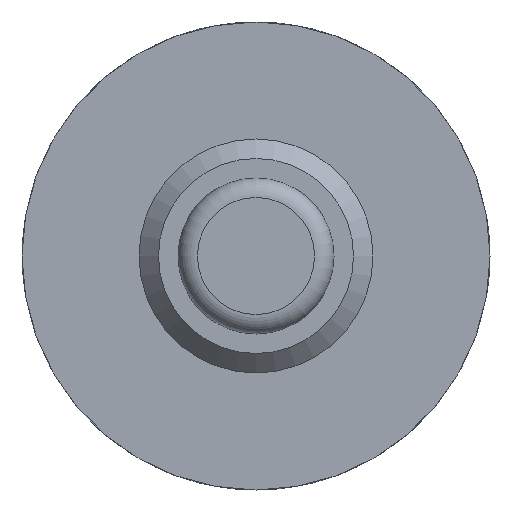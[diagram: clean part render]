
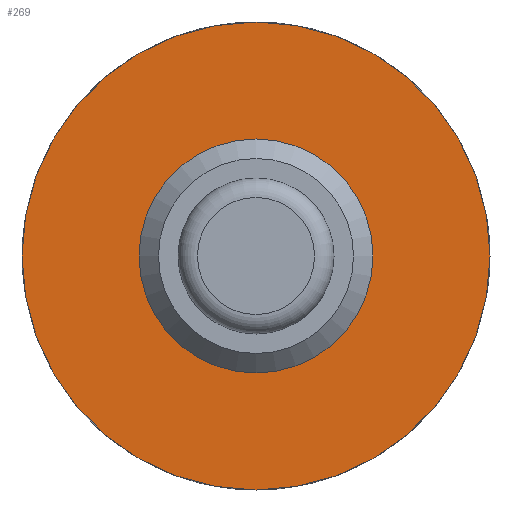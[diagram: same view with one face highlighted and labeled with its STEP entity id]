
A CAD part, front view. The second image highlights one B-rep face of the part: STEP entity #269.
In plain terms, the highlighted planar face has unit normal (0, -1, 0).
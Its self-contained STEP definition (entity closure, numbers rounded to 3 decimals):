
#17=FACE_BOUND('',#66,.T.);
#46=FACE_OUTER_BOUND('',#65,.T.);
#65=EDGE_LOOP('',(#242));
#66=EDGE_LOOP('',(#243));
#109=CIRCLE('',#323,6.);
#111=CIRCLE('',#327,2.25);
#133=VERTEX_POINT('',#491);
#135=VERTEX_POINT('',#498);
#168=EDGE_CURVE('',#133,#133,#109,.T.);
#170=EDGE_CURVE('',#135,#135,#111,.T.);
#242=ORIENTED_EDGE('',*,*,#168,.F.);
#243=ORIENTED_EDGE('',*,*,#170,.F.);
#252=PLANE('',#328);
#269=ADVANCED_FACE('',(#46,#17),#252,.T.);
#323=AXIS2_PLACEMENT_3D('',#493,#403,#404);
#327=AXIS2_PLACEMENT_3D('',#499,#411,#412);
#328=AXIS2_PLACEMENT_3D('',#501,#414,#415);
#403=DIRECTION('center_axis',(0.,1.,0.));
#404=DIRECTION('ref_axis',(-1.,0.,0.));
#411=DIRECTION('center_axis',(0.,-1.,0.));
#412=DIRECTION('ref_axis',(-1.,0.,0.));
#414=DIRECTION('center_axis',(0.,-1.,0.));
#415=DIRECTION('ref_axis',(0.,0.,-1.));
#491=CARTESIAN_POINT('',(6.,-4.,0.));
#493=CARTESIAN_POINT('Origin',(0.,-4.,0.));
#498=CARTESIAN_POINT('',(2.25,-4.,0.));
#499=CARTESIAN_POINT('Origin',(0.,-4.,0.));
#501=CARTESIAN_POINT('Origin',(-3.,-4.,0.));
